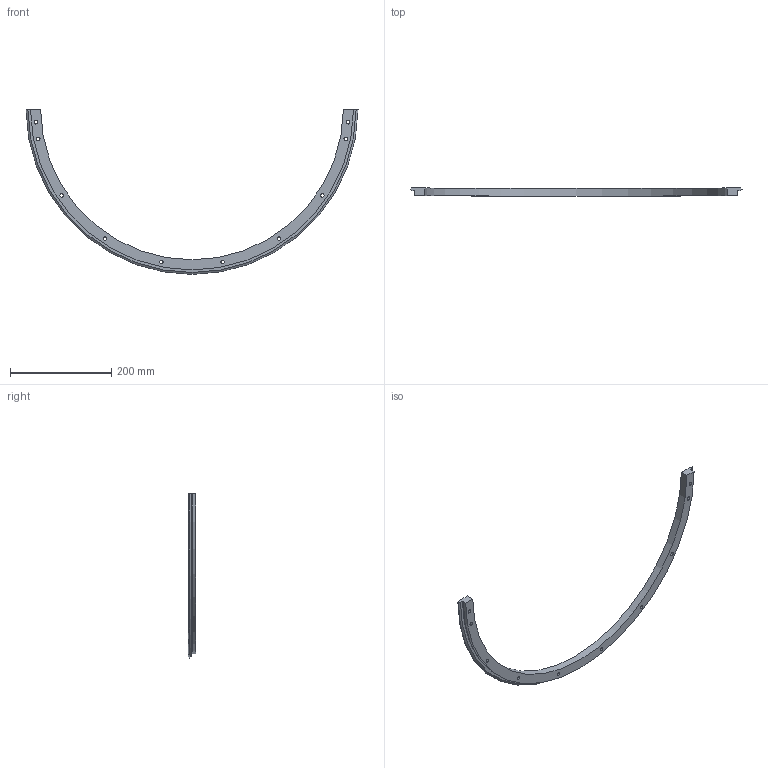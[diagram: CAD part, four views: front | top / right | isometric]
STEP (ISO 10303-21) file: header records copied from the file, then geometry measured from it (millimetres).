
FILE_DESCRIPTION( ( 'STEP AP203' ), '1' );
FILE_NAME( 'p:/temp/worker_31/temp/exporttempdir_2456_295_k5RTF/format_0/TREM 655 R180 .stp', '2021-09-17T07:50:48', ( 'License CC BY-ND 4.0' ), ( 'CADENAS' ), ' ', 'PARTsolutions', ' ' );
FILE_SCHEMA( ( 'CONFIG_CONTROL_DESIGN' ) );
Length unit declared in the file: millimetre
Products named in the file (1): _TREM 655 R180  
Bounding box: 655.09 x 15.5 x 325.06 mm (x, y, z)
Volume: 331816.5 mm3; surface area: 87976.1 mm2
Topology: 1 solids, 1 shells, 42 faces, 90 edges, 60 vertices
Faces by surface type: cylinder 23, plane 16, cone 2, torus 1
Full cylindrical faces by diameter (mm): 6.8 x10, 11 x10
Entity records: 1170 total; most frequent: CARTESIAN_POINT 204, DIRECTION 200, ORIENTED_EDGE 140, AXIS2_PLACEMENT_3D 93, EDGE_LOOP 92, EDGE_CURVE 70, FACE_OUTER_BOUND 62, VERTEX_POINT 61
